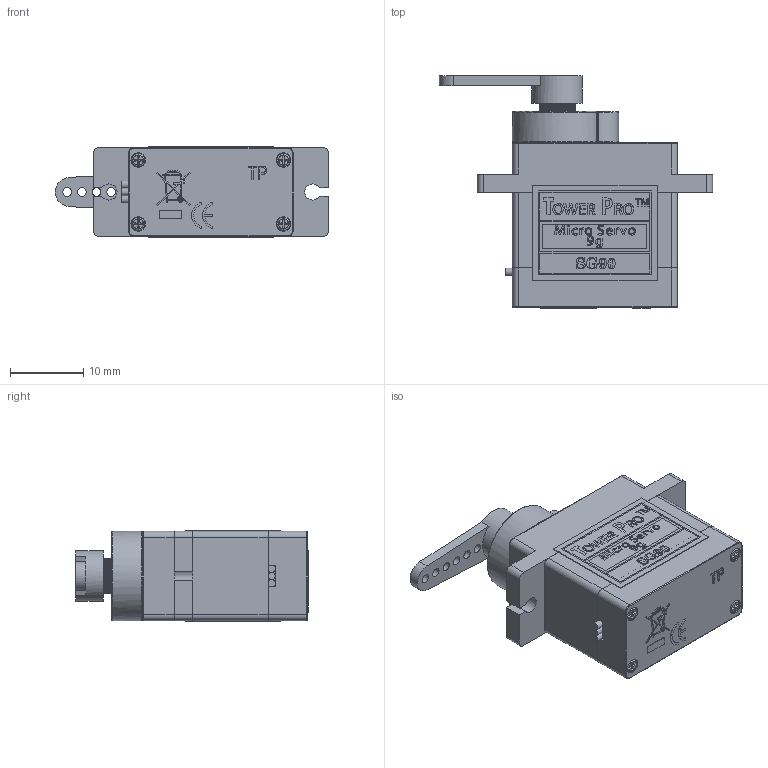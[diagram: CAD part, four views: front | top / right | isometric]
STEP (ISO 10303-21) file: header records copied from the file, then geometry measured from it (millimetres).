
FILE_DESCRIPTION(/* description */ (''),/* implementation_level */ '2;1');
FILE_NAME(/* name */ 'SG90 with holder_v3.tmp.step',/* time_stamp */ '2026-11-01T13:10:54+02:00',/* author */ (''),/* organization */ (''),/* preprocessor_version */ 'ST-DEVELOPER v20.2',/* originating_system */ 'Autodesk Translation Framework v15.15.0.0',/* authorisation */ '');
FILE_SCHEMA (('AUTOMOTIVE_DESIGN { 1 0 10303 214 3 1 1 }'));
Length unit declared in the file: millimetre
Products named in the file (2): SG90 - Micro Servo 9g - Tower Pro.1; SG90 - Micro Servo 9g - Tower Pro.2
Assembly tree (1 placements, depth 2):
  SG90 - Micro Servo 9g - Tower Pro.1
    SG90 - Micro Servo 9g - Tower Pro.2
Bounding box: 37.25 x 31.75 x 12.4 mm (x, y, z)
Volume: 7200.4 mm3; surface area: 5315 mm2
Topology: 14 solids, 14 shells, 809 faces, 2739 edges, 2070 vertices
Faces by surface type: plane 560, cylinder 198, torus 25, bspline 23, sphere 2, cone 1
Full cylindrical faces by diameter (mm): 0.2 x1, 0.5 x1, 1 x3, 1.2 x6, 1.6 x2, 1.8 x4, 2 x4, 2.1 x1, 4.6 x1, 5 x1, 6.9 x1
Entity records: 45529 total; most frequent: CARTESIAN_POINT 21630, ORIENTED_EDGE 5474, DIRECTION 4188, EDGE_CURVE 2737, VERTEX_POINT 2070, LINE 1684, VECTOR 1684, AXIS2_PLACEMENT_3D 1252
